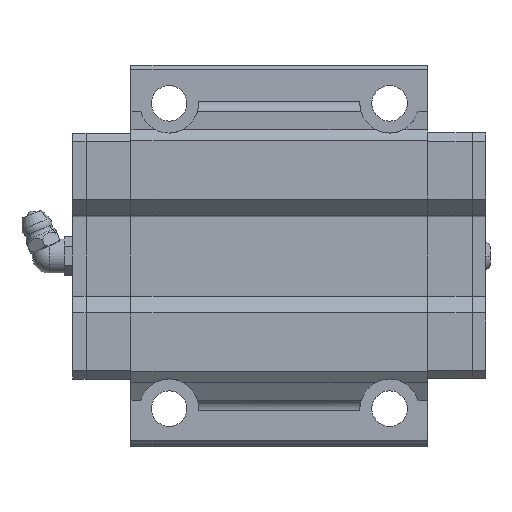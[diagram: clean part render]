
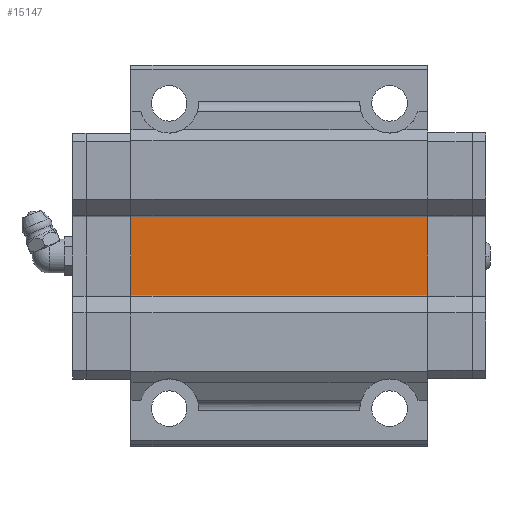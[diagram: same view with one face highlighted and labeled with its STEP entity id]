
A CAD part, front view. The second image highlights one B-rep face of the part: STEP entity #15147.
In plain terms, the highlighted planar face has unit normal (0, -1, 0).
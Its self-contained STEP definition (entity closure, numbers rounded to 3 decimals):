
#526 = CARTESIAN_POINT ( 'NONE',  ( -35., 0., 9.256 ) ) ;
#1272 = CARTESIAN_POINT ( 'NONE',  ( 48.7, 0., 9.256 ) ) ;
#1937 = VERTEX_POINT ( 'NONE', #526 ) ;
#2661 = CARTESIAN_POINT ( 'NONE',  ( -35., 0., 9.256 ) ) ;
#2722 = CARTESIAN_POINT ( 'NONE',  ( -35., 0., 4.628 ) ) ;
#3884 = AXIS2_PLACEMENT_3D ( 'NONE', #2661, #13560, #7395 ) ;
#4103 = ORIENTED_EDGE ( 'NONE', *, *, #10589, .F. ) ;
#4322 = VERTEX_POINT ( 'NONE', #6100 ) ;
#4417 = VECTOR ( 'NONE', #13713, 1000. ) ;
#5070 = VERTEX_POINT ( 'NONE', #7349 ) ;
#5972 = VECTOR ( 'NONE', #7377, 1000. ) ;
#6100 = CARTESIAN_POINT ( 'NONE',  ( 35., 0., -9.256 ) ) ;
#6243 = CARTESIAN_POINT ( 'NONE',  ( 48.7, 0., -9.256 ) ) ;
#7102 = ORIENTED_EDGE ( 'NONE', *, *, #13103, .T. ) ;
#7129 = ORIENTED_EDGE ( 'NONE', *, *, #13554, .F. ) ;
#7245 = EDGE_CURVE ( 'NONE', #5070, #1937, #7703, .T. ) ;
#7349 = CARTESIAN_POINT ( 'NONE',  ( -35., 0., -9.256 ) ) ;
#7377 = DIRECTION ( 'NONE',  ( -1., 0., 0. ) ) ;
#7395 = DIRECTION ( 'NONE',  ( 0., 0., -1. ) ) ;
#7475 = FACE_OUTER_BOUND ( 'NONE', #8991, .T. ) ;
#7703 = LINE ( 'NONE', #2722, #4417 ) ;
#8215 = VERTEX_POINT ( 'NONE', #10794 ) ;
#8500 = LINE ( 'NONE', #6243, #5972 ) ;
#8991 = EDGE_LOOP ( 'NONE', ( #7129, #7102, #12574, #4103 ) ) ;
#10509 = VECTOR ( 'NONE', #11103, 1000. ) ;
#10554 = DIRECTION ( 'NONE',  ( 0., 0., -1. ) ) ;
#10589 = EDGE_CURVE ( 'NONE', #4322, #5070, #8500, .T. ) ;
#10794 = CARTESIAN_POINT ( 'NONE',  ( 35., 0., 9.256 ) ) ;
#11103 = DIRECTION ( 'NONE',  ( -1., 0., 0. ) ) ;
#11137 = CARTESIAN_POINT ( 'NONE',  ( 35., 0., 4.628 ) ) ;
#12316 = LINE ( 'NONE', #1272, #10509 ) ;
#12574 = ORIENTED_EDGE ( 'NONE', *, *, #7245, .F. ) ;
#13103 = EDGE_CURVE ( 'NONE', #8215, #1937, #12316, .T. ) ;
#13554 = EDGE_CURVE ( 'NONE', #8215, #4322, #13577, .T. ) ;
#13560 = DIRECTION ( 'NONE',  ( 0., -1., 0. ) ) ;
#13577 = LINE ( 'NONE', #11137, #14421 ) ;
#13713 = DIRECTION ( 'NONE',  ( 0., 0., 1. ) ) ;
#14421 = VECTOR ( 'NONE', #10554, 1000. ) ;
#15147 = ADVANCED_FACE ( 'NONE', ( #7475 ), #15155, .T. ) ;
#15155 = PLANE ( 'NONE',  #3884 ) ;
